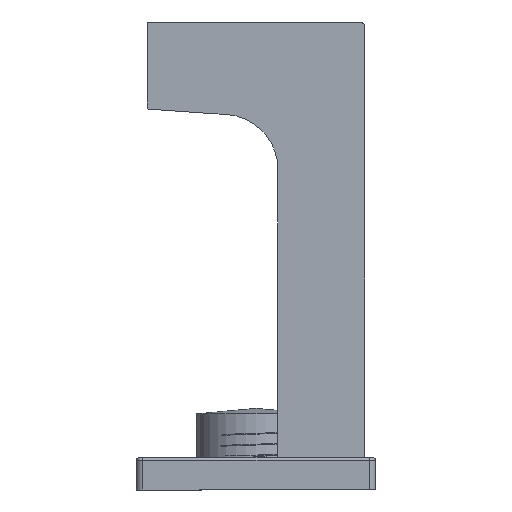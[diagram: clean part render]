
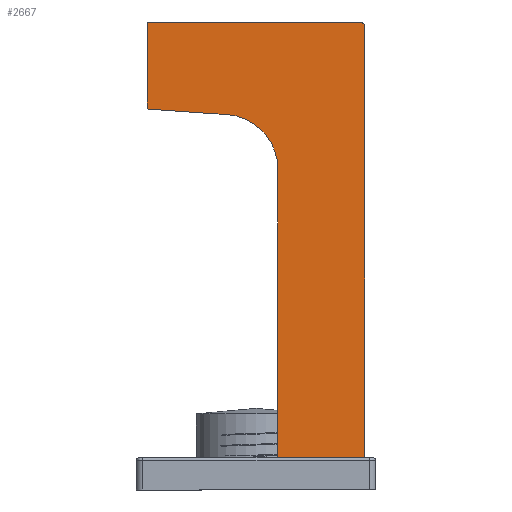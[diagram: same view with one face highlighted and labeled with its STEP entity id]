
A CAD part, left-side view. The second image highlights one B-rep face of the part: STEP entity #2667.
In plain terms, the highlighted planar face has unit normal (-1, 0, 0).
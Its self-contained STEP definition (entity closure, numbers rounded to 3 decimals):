
#132=PLANE('',#3022);
#299=FACE_OUTER_BOUND('',#477,.T.);
#477=EDGE_LOOP('',(#2407,#2408,#2409,#2410,#2411,#2412,#2413,#2414,#2415,
#2416));
#664=CIRCLE('',#3007,0.2);
#666=CIRCLE('',#3014,0.2);
#668=CIRCLE('',#3017,0.5);
#670=CIRCLE('',#3023,5.);
#857=LINE('',#6666,#1007);
#861=LINE('',#6675,#1011);
#865=LINE('',#6684,#1015);
#868=LINE('',#6690,#1018);
#871=LINE('',#6702,#1021);
#874=LINE('',#6710,#1024);
#1007=VECTOR('',#3798,10.);
#1011=VECTOR('',#3804,10.);
#1015=VECTOR('',#3810,10.);
#1018=VECTOR('',#3815,10.);
#1021=VECTOR('',#3832,10.);
#1024=VECTOR('',#3841,10.);
#1213=VERTEX_POINT('',#6653);
#1216=VERTEX_POINT('',#6658);
#1217=VERTEX_POINT('',#6662);
#1219=VERTEX_POINT('',#6668);
#1222=VERTEX_POINT('',#6673);
#1223=VERTEX_POINT('',#6677);
#1226=VERTEX_POINT('',#6682);
#1227=VERTEX_POINT('',#6686);
#1229=VERTEX_POINT('',#6698);
#1232=VERTEX_POINT('',#6708);
#1602=EDGE_CURVE('',#1216,#1213,#664,.T.);
#1605=EDGE_CURVE('',#1213,#1217,#857,.T.);
#1609=EDGE_CURVE('',#1222,#1219,#861,.T.);
#1613=EDGE_CURVE('',#1226,#1223,#865,.T.);
#1616=EDGE_CURVE('',#1219,#1227,#868,.T.);
#1618=EDGE_CURVE('',#1217,#1226,#666,.T.);
#1620=EDGE_CURVE('',#1223,#1222,#668,.T.);
#1623=EDGE_CURVE('',#1227,#1229,#871,.T.);
#1627=EDGE_CURVE('',#1232,#1216,#874,.T.);
#1628=EDGE_CURVE('',#1232,#1229,#670,.T.);
#2407=ORIENTED_EDGE('',*,*,#1618,.F.);
#2408=ORIENTED_EDGE('',*,*,#1605,.F.);
#2409=ORIENTED_EDGE('',*,*,#1602,.F.);
#2410=ORIENTED_EDGE('',*,*,#1627,.F.);
#2411=ORIENTED_EDGE('',*,*,#1628,.T.);
#2412=ORIENTED_EDGE('',*,*,#1623,.F.);
#2413=ORIENTED_EDGE('',*,*,#1616,.F.);
#2414=ORIENTED_EDGE('',*,*,#1609,.F.);
#2415=ORIENTED_EDGE('',*,*,#1620,.F.);
#2416=ORIENTED_EDGE('',*,*,#1613,.F.);
#2667=ADVANCED_FACE('',(#299),#132,.T.);
#3007=AXIS2_PLACEMENT_3D('',#6660,#3792,#3793);
#3014=AXIS2_PLACEMENT_3D('',#6693,#3820,#3821);
#3017=AXIS2_PLACEMENT_3D('',#6696,#3826,#3827);
#3022=AXIS2_PLACEMENT_3D('',#6711,#3842,#3843);
#3023=AXIS2_PLACEMENT_3D('',#6712,#3844,#3845);
#3792=DIRECTION('center_axis',(1.,0.,0.));
#3793=DIRECTION('ref_axis',(0.,1.,0.));
#3798=DIRECTION('',(0.,0.,1.));
#3804=DIRECTION('',(0.,0.,-1.));
#3810=DIRECTION('',(0.,-1.,0.));
#3815=DIRECTION('',(0.,1.,0.));
#3820=DIRECTION('center_axis',(1.,0.,0.));
#3821=DIRECTION('ref_axis',(0.,0.,1.));
#3826=DIRECTION('center_axis',(1.,0.,0.));
#3827=DIRECTION('ref_axis',(0.,-1.,0.));
#3832=DIRECTION('',(0.,0.,1.));
#3841=DIRECTION('',(0.,0.998,0.069));
#3842=DIRECTION('center_axis',(-1.,0.,0.));
#3843=DIRECTION('ref_axis',(0.,0.,1.));
#3844=DIRECTION('center_axis',(1.,0.,0.));
#3845=DIRECTION('ref_axis',(0.,-1.,0.));
#6653=CARTESIAN_POINT('',(3.,21.,35.182));
#6658=CARTESIAN_POINT('',(3.,20.814,34.982));
#6660=CARTESIAN_POINT('Origin',(3.,20.8,35.182));
#6662=CARTESIAN_POINT('',(3.,21.,42.795));
#6666=CARTESIAN_POINT('',(3.,21.,35.182));
#6668=CARTESIAN_POINT('',(3.,1.,2.995));
#6673=CARTESIAN_POINT('',(3.,1.,42.495));
#6675=CARTESIAN_POINT('',(3.,1.,42.495));
#6677=CARTESIAN_POINT('',(3.,1.5,42.995));
#6682=CARTESIAN_POINT('',(3.,20.8,42.995));
#6684=CARTESIAN_POINT('',(3.,20.8,42.995));
#6686=CARTESIAN_POINT('',(3.,9.,2.995));
#6690=CARTESIAN_POINT('',(3.,1.,2.995));
#6693=CARTESIAN_POINT('Origin',(3.,20.8,42.795));
#6696=CARTESIAN_POINT('Origin',(3.,1.5,42.495));
#6698=CARTESIAN_POINT('',(3.,9.,29.499));
#6702=CARTESIAN_POINT('',(3.,9.,2.995));
#6708=CARTESIAN_POINT('',(3.,13.655,34.487));
#6710=CARTESIAN_POINT('',(3.,13.655,34.487));
#6711=CARTESIAN_POINT('Origin',(3.,-35.131,31.193));
#6712=CARTESIAN_POINT('Origin',(3.,14.,29.499));
